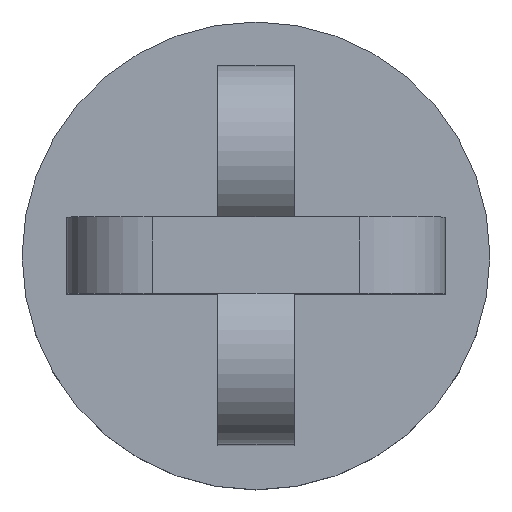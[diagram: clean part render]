
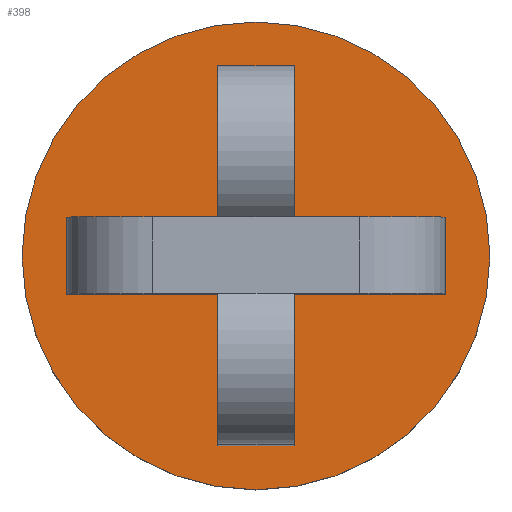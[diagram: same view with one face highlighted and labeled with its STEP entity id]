
A CAD part, top view. The second image highlights one B-rep face of the part: STEP entity #398.
In plain terms, the highlighted planar face has unit normal (0, 0, 1).
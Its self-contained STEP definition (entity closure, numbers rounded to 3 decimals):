
#15=FACE_BOUND('',#79,.T.);
#32=PLANE('',#450);
#55=FACE_OUTER_BOUND('',#78,.T.);
#78=EDGE_LOOP('',(#356));
#79=EDGE_LOOP('',(#357,#358,#359,#360,#361,#362,#363,#364,#365,#366,#367,
#368));
#85=LINE('',#582,#123);
#88=LINE('',#587,#126);
#89=LINE('',#590,#127);
#95=LINE('',#607,#133);
#104=LINE('',#627,#142);
#106=LINE('',#636,#144);
#109=LINE('',#641,#147);
#111=LINE('',#645,#149);
#112=LINE('',#647,#150);
#114=LINE('',#651,#152);
#116=LINE('',#655,#154);
#117=LINE('',#657,#155);
#123=VECTOR('',#465,10.);
#126=VECTOR('',#470,10.);
#127=VECTOR('',#473,10.);
#133=VECTOR('',#487,10.);
#142=VECTOR('',#506,10.);
#144=VECTOR('',#516,10.);
#147=VECTOR('',#521,10.);
#149=VECTOR('',#525,10.);
#150=VECTOR('',#528,10.);
#152=VECTOR('',#532,10.);
#154=VECTOR('',#536,10.);
#155=VECTOR('',#539,10.);
#172=CIRCLE('',#448,4.75);
#178=VERTEX_POINT('',#579);
#179=VERTEX_POINT('',#581);
#180=VERTEX_POINT('',#585);
#181=VERTEX_POINT('',#589);
#187=VERTEX_POINT('',#604);
#188=VERTEX_POINT('',#606);
#194=VERTEX_POINT('',#625);
#197=VERTEX_POINT('',#635);
#198=VERTEX_POINT('',#639);
#199=VERTEX_POINT('',#643);
#200=VERTEX_POINT('',#649);
#201=VERTEX_POINT('',#653);
#207=VERTEX_POINT('',#700);
#214=EDGE_CURVE('',#179,#178,#85,.T.);
#217=EDGE_CURVE('',#178,#180,#88,.T.);
#218=EDGE_CURVE('',#181,#179,#89,.T.);
#226=EDGE_CURVE('',#188,#187,#95,.T.);
#237=EDGE_CURVE('',#187,#194,#104,.T.);
#241=EDGE_CURVE('',#197,#181,#106,.T.);
#244=EDGE_CURVE('',#194,#198,#109,.T.);
#246=EDGE_CURVE('',#180,#199,#111,.T.);
#247=EDGE_CURVE('',#199,#188,#112,.T.);
#249=EDGE_CURVE('',#198,#200,#114,.T.);
#251=EDGE_CURVE('',#200,#201,#116,.T.);
#252=EDGE_CURVE('',#201,#197,#117,.T.);
#260=EDGE_CURVE('',#207,#207,#172,.T.);
#356=ORIENTED_EDGE('',*,*,#260,.T.);
#357=ORIENTED_EDGE('',*,*,#244,.T.);
#358=ORIENTED_EDGE('',*,*,#249,.T.);
#359=ORIENTED_EDGE('',*,*,#251,.T.);
#360=ORIENTED_EDGE('',*,*,#252,.T.);
#361=ORIENTED_EDGE('',*,*,#241,.T.);
#362=ORIENTED_EDGE('',*,*,#218,.T.);
#363=ORIENTED_EDGE('',*,*,#214,.T.);
#364=ORIENTED_EDGE('',*,*,#217,.T.);
#365=ORIENTED_EDGE('',*,*,#246,.T.);
#366=ORIENTED_EDGE('',*,*,#247,.T.);
#367=ORIENTED_EDGE('',*,*,#226,.T.);
#368=ORIENTED_EDGE('',*,*,#237,.T.);
#398=ADVANCED_FACE('',(#55,#15),#32,.T.);
#448=AXIS2_PLACEMENT_3D('',#701,#559,#560);
#450=AXIS2_PLACEMENT_3D('',#705,#564,#565);
#465=DIRECTION('',(1.,0.,0.));
#470=DIRECTION('',(0.,-1.,0.));
#473=DIRECTION('',(0.,1.,0.));
#487=DIRECTION('',(-1.,0.,0.));
#506=DIRECTION('',(0.,-1.,0.));
#516=DIRECTION('',(1.,0.,0.));
#521=DIRECTION('',(-1.,0.,0.));
#525=DIRECTION('',(1.,0.,0.));
#528=DIRECTION('',(0.,-1.,0.));
#532=DIRECTION('',(0.,1.,0.));
#536=DIRECTION('',(-1.,0.,0.));
#539=DIRECTION('',(0.,1.,0.));
#559=DIRECTION('center_axis',(0.,0.,1.));
#560=DIRECTION('ref_axis',(1.,0.,0.));
#564=DIRECTION('center_axis',(0.,0.,1.));
#565=DIRECTION('ref_axis',(1.,0.,0.));
#579=CARTESIAN_POINT('',(0.775,3.85,1.8));
#581=CARTESIAN_POINT('',(-0.775,3.85,1.8));
#582=CARTESIAN_POINT('',(0.388,3.85,1.8));
#585=CARTESIAN_POINT('',(0.775,0.775,1.8));
#587=CARTESIAN_POINT('',(0.775,0.388,1.8));
#589=CARTESIAN_POINT('',(-0.775,0.775,1.8));
#590=CARTESIAN_POINT('',(-0.775,1.925,1.8));
#604=CARTESIAN_POINT('',(0.775,-0.775,1.8));
#606=CARTESIAN_POINT('',(3.85,-0.775,1.8));
#607=CARTESIAN_POINT('',(0.388,-0.775,1.8));
#625=CARTESIAN_POINT('',(0.775,-3.85,1.8));
#627=CARTESIAN_POINT('',(0.775,-1.925,1.8));
#635=CARTESIAN_POINT('',(-3.85,0.775,1.8));
#636=CARTESIAN_POINT('',(-0.388,0.775,1.8));
#639=CARTESIAN_POINT('',(-0.775,-3.85,1.8));
#641=CARTESIAN_POINT('',(-0.388,-3.85,1.8));
#643=CARTESIAN_POINT('',(3.85,0.775,1.8));
#645=CARTESIAN_POINT('',(1.925,0.775,1.8));
#647=CARTESIAN_POINT('',(3.85,-0.388,1.8));
#649=CARTESIAN_POINT('',(-0.775,-0.775,1.8));
#651=CARTESIAN_POINT('',(-0.775,-0.388,1.8));
#653=CARTESIAN_POINT('',(-3.85,-0.775,1.8));
#655=CARTESIAN_POINT('',(-1.925,-0.775,1.8));
#657=CARTESIAN_POINT('',(-3.85,0.388,1.8));
#700=CARTESIAN_POINT('',(-4.75,0.,1.8));
#701=CARTESIAN_POINT('Origin',(0.,0.,1.8));
#705=CARTESIAN_POINT('Origin',(0.,0.,1.8));
